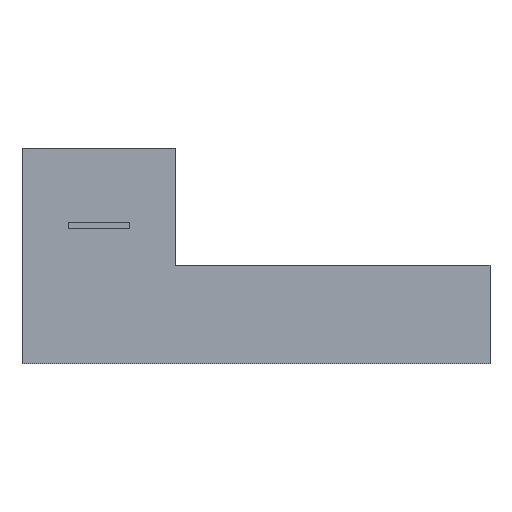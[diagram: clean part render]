
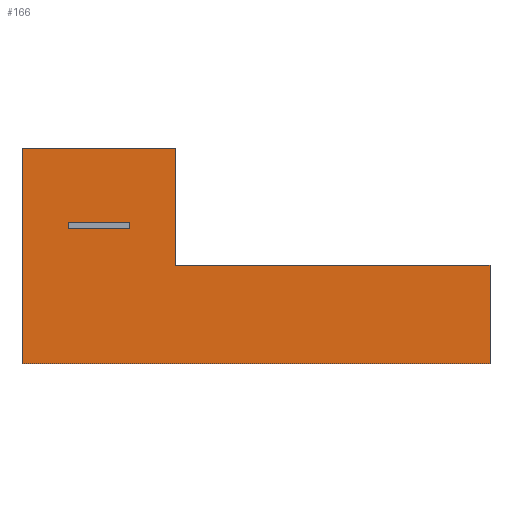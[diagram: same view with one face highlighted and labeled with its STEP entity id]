
A CAD part, left-side view. The second image highlights one B-rep face of the part: STEP entity #166.
In plain terms, the highlighted planar face has unit normal (-1, 0, 0).
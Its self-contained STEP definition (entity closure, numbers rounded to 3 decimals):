
#166=ADVANCED_FACE('',(#319,#321),#323,.T.);
#319=FACE_BOUND('',#320,.T.);
#320=EDGE_LOOP('',(#428,#429,#430,#431,#432,#433));
#321=FACE_BOUND('',#322,.T.);
#322=EDGE_LOOP('',(#434,#435,#436,#437));
#323=PLANE('',#324);
#324=AXIS2_PLACEMENT_3D('',#325,#326,#327);
#325=CARTESIAN_POINT('',(-2.5,3.8,2.2));
#326=DIRECTION('',(-1.,0.,0.));
#327=DIRECTION('',(0.,-1.,0.));
#428=ORIENTED_EDGE('',*,*,#481,.T.);
#429=ORIENTED_EDGE('',*,*,#480,.F.);
#430=ORIENTED_EDGE('',*,*,#491,.F.);
#431=ORIENTED_EDGE('',*,*,#488,.T.);
#432=ORIENTED_EDGE('',*,*,#487,.T.);
#433=ORIENTED_EDGE('',*,*,#483,.F.);
#434=ORIENTED_EDGE('',*,*,#492,.F.);
#435=ORIENTED_EDGE('',*,*,#493,.F.);
#436=ORIENTED_EDGE('',*,*,#494,.F.);
#437=ORIENTED_EDGE('',*,*,#495,.F.);
#480=EDGE_CURVE('',#538,#536,#540,.T.);
#481=EDGE_CURVE('',#541,#536,#542,.T.);
#483=EDGE_CURVE('',#541,#544,#545,.T.);
#487=EDGE_CURVE('',#549,#544,#551,.T.);
#488=EDGE_CURVE('',#552,#549,#553,.T.);
#491=EDGE_CURVE('',#552,#538,#557,.T.);
#492=EDGE_CURVE('',#558,#559,#560,.T.);
#493=EDGE_CURVE('',#561,#558,#562,.T.);
#494=EDGE_CURVE('',#563,#561,#564,.T.);
#495=EDGE_CURVE('',#559,#563,#565,.F.);
#536=VERTEX_POINT('',#646);
#538=VERTEX_POINT('',#650);
#540=LINE('',#654,#655);
#541=VERTEX_POINT('',#657);
#542=LINE('',#658,#659);
#544=VERTEX_POINT('',#664);
#545=LINE('',#665,#666);
#549=VERTEX_POINT('',#676);
#551=LINE('',#680,#681);
#552=VERTEX_POINT('',#683);
#553=LINE('',#684,#685);
#557=LINE('',#695,#696);
#558=VERTEX_POINT('',#698);
#559=VERTEX_POINT('',#699);
#560=LINE('',#700,#701);
#561=VERTEX_POINT('',#703);
#562=LINE('',#704,#705);
#563=VERTEX_POINT('',#707);
#564=LINE('',#708,#709);
#565=LINE('',#711,#712);
#646=CARTESIAN_POINT('',(-2.5,1.3,3.5));
#650=CARTESIAN_POINT('',(-2.5,3.8,3.5));
#654=CARTESIAN_POINT('',(-2.5,3.8,3.5));
#655=VECTOR('',#656,1.);
#656=DIRECTION('',(0.,-1.,0.));
#657=CARTESIAN_POINT('',(-2.5,1.3,1.6));
#658=CARTESIAN_POINT('',(-2.5,1.3,1.6));
#659=VECTOR('',#660,1.);
#660=DIRECTION('',(0.,0.,1.));
#664=CARTESIAN_POINT('',(-2.5,-3.8,1.6));
#665=CARTESIAN_POINT('',(-2.5,1.3,1.6));
#666=VECTOR('',#667,1.);
#667=DIRECTION('',(0.,-1.,0.));
#676=CARTESIAN_POINT('',(-2.5,-3.8,0.));
#680=CARTESIAN_POINT('',(-2.5,-3.8,0.));
#681=VECTOR('',#682,1.);
#682=DIRECTION('',(0.,0.,1.));
#683=CARTESIAN_POINT('',(-2.5,3.8,0.));
#684=CARTESIAN_POINT('',(-2.5,3.8,0.));
#685=VECTOR('',#686,1.);
#686=DIRECTION('',(0.,-1.,0.));
#695=CARTESIAN_POINT('',(-2.5,3.8,0.));
#696=VECTOR('',#697,1.);
#697=DIRECTION('',(0.,0.,1.));
#698=CARTESIAN_POINT('',(-2.5,3.05,2.3));
#699=CARTESIAN_POINT('',(-2.5,3.05,2.2));
#700=CARTESIAN_POINT('',(-2.5,3.05,2.3));
#701=VECTOR('',#702,1.);
#702=DIRECTION('',(0.,0.,-1.));
#703=CARTESIAN_POINT('',(-2.5,2.05,2.3));
#704=CARTESIAN_POINT('',(-2.5,2.05,2.3));
#705=VECTOR('',#706,1.);
#706=DIRECTION('',(0.,1.,0.));
#707=CARTESIAN_POINT('',(-2.5,2.05,2.2));
#708=CARTESIAN_POINT('',(-2.5,2.05,2.2));
#709=VECTOR('',#710,1.);
#710=DIRECTION('',(0.,0.,1.));
#711=CARTESIAN_POINT('',(-2.5,2.05,2.2));
#712=VECTOR('',#713,1.);
#713=DIRECTION('',(0.,1.,0.));
